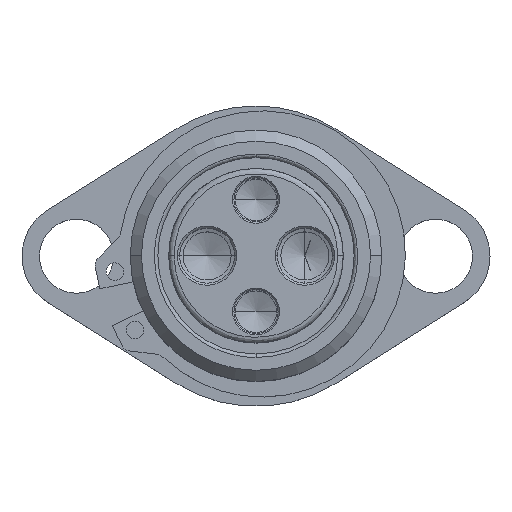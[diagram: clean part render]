
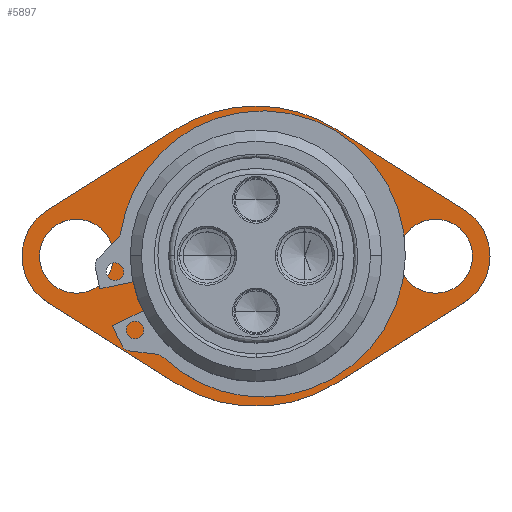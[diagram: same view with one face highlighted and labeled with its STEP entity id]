
A CAD part, top view. The second image highlights one B-rep face of the part: STEP entity #5897.
In plain terms, the highlighted planar face has unit normal (0, 0, 1) as drawn and (0, 1, 0) by its records, which use the part's own axes.
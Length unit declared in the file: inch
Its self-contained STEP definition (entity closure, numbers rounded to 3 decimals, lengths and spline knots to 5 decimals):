
#48 = ORIENTED_EDGE ( 'NONE', *, *, #942, .F. ) ;
#75 = CARTESIAN_POINT ( 'NONE',  ( 0., 0.25, 0. ) ) ;
#79 = LINE ( 'NONE', #1450, #915 ) ;
#81 = CARTESIAN_POINT ( 'NONE',  ( 1.285, 0.25, 0. ) ) ;
#93 = VECTOR ( 'NONE', #3930, 39.37008 ) ;
#127 = DIRECTION ( 'NONE',  ( 0., -1., 0. ) ) ;
#211 = EDGE_CURVE ( 'NONE', #1039, #1378, #873, .T. ) ;
#345 = ORIENTED_EDGE ( 'NONE', *, *, #2835, .T. ) ;
#376 = AXIS2_PLACEMENT_3D ( 'NONE', #75, #3287, #2400 ) ;
#378 = EDGE_LOOP ( 'NONE', ( #5027, #4464 ) ) ;
#392 = CARTESIAN_POINT ( 'NONE',  ( 0., 0.25, -1.075 ) ) ;
#411 = VERTEX_POINT ( 'NONE', #4687 ) ;
#450 = AXIS2_PLACEMENT_3D ( 'NONE', #5252, #4308, #2877 ) ;
#538 = DIRECTION ( 'NONE',  ( 0., 0., -1. ) ) ;
#575 = AXIS2_PLACEMENT_3D ( 'NONE', #1452, #4696, #3200 ) ;
#620 = LINE ( 'NONE', #4919, #93 ) ;
#683 = CARTESIAN_POINT ( 'NONE',  ( 0.57305, 0.25, -0.90952 ) ) ;
#824 = AXIS2_PLACEMENT_3D ( 'NONE', #2522, #2105, #1604 ) ;
#873 = CIRCLE ( 'NONE', #3169, 0.9 ) ;
#888 = EDGE_CURVE ( 'NONE', #1739, #411, #1530, .T. ) ;
#915 = VECTOR ( 'NONE', #4241, 39.37008 ) ;
#942 = EDGE_CURVE ( 'NONE', #3940, #5058, #4975, .T. ) ;
#951 = CARTESIAN_POINT ( 'NONE',  ( -0.57305, 0.25, -0.90952 ) ) ;
#953 = EDGE_CURVE ( 'NONE', #5353, #2119, #2446, .T. ) ;
#978 = EDGE_CURVE ( 'NONE', #3511, #5136, #5335, .T. ) ;
#1019 = AXIS2_PLACEMENT_3D ( 'NONE', #1518, #1549, #538 ) ;
#1039 = VERTEX_POINT ( 'NONE', #5291 ) ;
#1070 = ORIENTED_EDGE ( 'NONE', *, *, #211, .T. ) ;
#1079 = VERTEX_POINT ( 'NONE', #2016 ) ;
#1132 = CIRCLE ( 'NONE', #824, 1.075 ) ;
#1217 = DIRECTION ( 'NONE',  ( 0., 0., -1. ) ) ;
#1264 = VERTEX_POINT ( 'NONE', #683 ) ;
#1275 = FACE_BOUND ( 'NONE', #2946, .T. ) ;
#1378 = VERTEX_POINT ( 'NONE', #3119 ) ;
#1450 = CARTESIAN_POINT ( 'NONE',  ( 0.57305, 0.25, -0.90952 ) ) ;
#1452 = CARTESIAN_POINT ( 'NONE',  ( -1.285, 0.25, 0. ) ) ;
#1518 = CARTESIAN_POINT ( 'NONE',  ( 1.285, 0.25, 0. ) ) ;
#1530 = CIRCLE ( 'NONE', #575, 0.39 ) ;
#1549 = DIRECTION ( 'NONE',  ( 0., -1., 0. ) ) ;
#1577 = DIRECTION ( 'NONE',  ( 0., -1., 0. ) ) ;
#1583 = EDGE_LOOP ( 'NONE', ( #48, #4152, #5863, #345, #1806, #5504, #4058, #4136, #4357 ) ) ;
#1604 = DIRECTION ( 'NONE',  ( 0., 0., -1. ) ) ;
#1739 = VERTEX_POINT ( 'NONE', #4448 ) ;
#1781 = EDGE_CURVE ( 'NONE', #3372, #5163, #620, .T. ) ;
#1806 = ORIENTED_EDGE ( 'NONE', *, *, #5873, .F. ) ;
#1885 = CARTESIAN_POINT ( 'NONE',  ( -1.285, 0.25, -0.265 ) ) ;
#2016 = CARTESIAN_POINT ( 'NONE',  ( 1.4929, 0.25, -0.32997 ) ) ;
#2048 = DIRECTION ( 'NONE',  ( 0., -1., 0. ) ) ;
#2054 = CARTESIAN_POINT ( 'NONE',  ( 1.285, 0.25, 0. ) ) ;
#2105 = DIRECTION ( 'NONE',  ( 0., -1., 0. ) ) ;
#2119 = VERTEX_POINT ( 'NONE', #3270 ) ;
#2148 = AXIS2_PLACEMENT_3D ( 'NONE', #3044, #2576, #3465 ) ;
#2245 = EDGE_CURVE ( 'NONE', #5058, #1264, #1132, .T. ) ;
#2313 = EDGE_CURVE ( 'NONE', #3940, #411, #3607, .T. ) ;
#2315 = VERTEX_POINT ( 'NONE', #4477 ) ;
#2354 = CARTESIAN_POINT ( 'NONE',  ( -1.4929, 0.25, 0.32997 ) ) ;
#2400 = DIRECTION ( 'NONE',  ( 0., 0., -1. ) ) ;
#2446 = CIRCLE ( 'NONE', #1019, 0.265 ) ;
#2522 = CARTESIAN_POINT ( 'NONE',  ( 0., 0.25, 0. ) ) ;
#2576 = DIRECTION ( 'NONE',  ( 0., -1., 0. ) ) ;
#2619 = CARTESIAN_POINT ( 'NONE',  ( 1.285, 0.25, 0.265 ) ) ;
#2651 = AXIS2_PLACEMENT_3D ( 'NONE', #3434, #3600, #5958 ) ;
#2705 = ORIENTED_EDGE ( 'NONE', *, *, #5589, .T. ) ;
#2835 = EDGE_CURVE ( 'NONE', #1739, #2315, #4192, .T. ) ;
#2877 = DIRECTION ( 'NONE',  ( 0., 0., -1. ) ) ;
#2912 = FACE_OUTER_BOUND ( 'NONE', #1583, .T. ) ;
#2928 = CIRCLE ( 'NONE', #5130, 0.39 ) ;
#2946 = EDGE_LOOP ( 'NONE', ( #5573, #1070 ) ) ;
#3044 = CARTESIAN_POINT ( 'NONE',  ( 0., 0.25, 0. ) ) ;
#3119 = CARTESIAN_POINT ( 'NONE',  ( 0., 0.25, -0.9 ) ) ;
#3148 = FACE_BOUND ( 'NONE', #378, .T. ) ;
#3169 = AXIS2_PLACEMENT_3D ( 'NONE', #4852, #2048, #5333 ) ;
#3200 = DIRECTION ( 'NONE',  ( 0., 0., -1. ) ) ;
#3247 = DIRECTION ( 'NONE',  ( 0., 0., -1. ) ) ;
#3270 = CARTESIAN_POINT ( 'NONE',  ( 1.285, 0.25, -0.265 ) ) ;
#3287 = DIRECTION ( 'NONE',  ( 0., -1., 0. ) ) ;
#3372 = VERTEX_POINT ( 'NONE', #4219 ) ;
#3434 = CARTESIAN_POINT ( 'NONE',  ( -1.285, 0.25, 0. ) ) ;
#3446 = EDGE_CURVE ( 'NONE', #1079, #1264, #79, .T. ) ;
#3465 = DIRECTION ( 'NONE',  ( 0., 0., -1. ) ) ;
#3511 = VERTEX_POINT ( 'NONE', #5792 ) ;
#3550 = CARTESIAN_POINT ( 'NONE',  ( -1.4929, 0.25, -0.32997 ) ) ;
#3600 = DIRECTION ( 'NONE',  ( 0., 1., 0. ) ) ;
#3607 = LINE ( 'NONE', #3550, #4412 ) ;
#3855 = EDGE_CURVE ( 'NONE', #1378, #1039, #5800, .T. ) ;
#3930 = DIRECTION ( 'NONE',  ( 0.846, 0., -0.533 ) ) ;
#3940 = VERTEX_POINT ( 'NONE', #951 ) ;
#4025 = DIRECTION ( 'NONE',  ( -0.846, 0., 0.533 ) ) ;
#4053 = CIRCLE ( 'NONE', #5962, 0.265 ) ;
#4058 = ORIENTED_EDGE ( 'NONE', *, *, #4612, .F. ) ;
#4136 = ORIENTED_EDGE ( 'NONE', *, *, #3446, .T. ) ;
#4152 = ORIENTED_EDGE ( 'NONE', *, *, #2313, .T. ) ;
#4162 = CARTESIAN_POINT ( 'NONE',  ( 1.4929, 0.25, 0.32997 ) ) ;
#4192 = LINE ( 'NONE', #2354, #5976 ) ;
#4219 = CARTESIAN_POINT ( 'NONE',  ( 0.57305, 0.25, 0.90952 ) ) ;
#4241 = DIRECTION ( 'NONE',  ( -0.846, 0., -0.533 ) ) ;
#4306 = EDGE_LOOP ( 'NONE', ( #2705, #4874 ) ) ;
#4308 = DIRECTION ( 'NONE',  ( 0., -1., 0. ) ) ;
#4357 = ORIENTED_EDGE ( 'NONE', *, *, #2245, .F. ) ;
#4412 = VECTOR ( 'NONE', #4025, 39.37008 ) ;
#4448 = CARTESIAN_POINT ( 'NONE',  ( -1.4929, 0.25, 0.32997 ) ) ;
#4464 = ORIENTED_EDGE ( 'NONE', *, *, #978, .T. ) ;
#4477 = CARTESIAN_POINT ( 'NONE',  ( -0.57305, 0.25, 0.90952 ) ) ;
#4612 = EDGE_CURVE ( 'NONE', #1079, #5163, #2928, .T. ) ;
#4678 = FACE_BOUND ( 'NONE', #4306, .T. ) ;
#4687 = CARTESIAN_POINT ( 'NONE',  ( -1.4929, 0.25, -0.32997 ) ) ;
#4696 = DIRECTION ( 'NONE',  ( 0., -1., 0. ) ) ;
#4712 = EDGE_CURVE ( 'NONE', #5136, #3511, #4053, .T. ) ;
#4719 = AXIS2_PLACEMENT_3D ( 'NONE', #81, #5695, #5234 ) ;
#4819 = CARTESIAN_POINT ( 'NONE',  ( -1.285, 0.25, 0. ) ) ;
#4852 = CARTESIAN_POINT ( 'NONE',  ( 0., 0.25, 0. ) ) ;
#4874 = ORIENTED_EDGE ( 'NONE', *, *, #953, .T. ) ;
#4880 = DIRECTION ( 'NONE',  ( 0., 0., -1. ) ) ;
#4919 = CARTESIAN_POINT ( 'NONE',  ( 0.57305, 0.25, 0.90952 ) ) ;
#4975 = CIRCLE ( 'NONE', #376, 1.075 ) ;
#5027 = ORIENTED_EDGE ( 'NONE', *, *, #4712, .T. ) ;
#5058 = VERTEX_POINT ( 'NONE', #392 ) ;
#5130 = AXIS2_PLACEMENT_3D ( 'NONE', #2054, #127, #4880 ) ;
#5136 = VERTEX_POINT ( 'NONE', #1885 ) ;
#5163 = VERTEX_POINT ( 'NONE', #4162 ) ;
#5234 = DIRECTION ( 'NONE',  ( 0., 0., -1. ) ) ;
#5252 = CARTESIAN_POINT ( 'NONE',  ( -1.285, 0.25, 0. ) ) ;
#5291 = CARTESIAN_POINT ( 'NONE',  ( 0., 0.25, 0.9 ) ) ;
#5305 = CIRCLE ( 'NONE', #4719, 0.265 ) ;
#5333 = DIRECTION ( 'NONE',  ( 0., 0., -1. ) ) ;
#5335 = CIRCLE ( 'NONE', #450, 0.265 ) ;
#5353 = VERTEX_POINT ( 'NONE', #2619 ) ;
#5448 = AXIS2_PLACEMENT_3D ( 'NONE', #6060, #5619, #3247 ) ;
#5504 = ORIENTED_EDGE ( 'NONE', *, *, #1781, .T. ) ;
#5573 = ORIENTED_EDGE ( 'NONE', *, *, #3855, .T. ) ;
#5589 = EDGE_CURVE ( 'NONE', #2119, #5353, #5305, .T. ) ;
#5619 = DIRECTION ( 'NONE',  ( 0., -1., 0. ) ) ;
#5646 = CIRCLE ( 'NONE', #2148, 1.075 ) ;
#5695 = DIRECTION ( 'NONE',  ( 0., -1., 0. ) ) ;
#5792 = CARTESIAN_POINT ( 'NONE',  ( -1.285, 0.25, 0.265 ) ) ;
#5800 = CIRCLE ( 'NONE', #5448, 0.9 ) ;
#5863 = ORIENTED_EDGE ( 'NONE', *, *, #888, .F. ) ;
#5873 = EDGE_CURVE ( 'NONE', #3372, #2315, #5646, .T. ) ;
#5897 = ADVANCED_FACE ( 'NONE', ( #3148, #2912, #4678, #1275 ), #5920, .T. ) ;
#5920 = PLANE ( 'NONE',  #2651 ) ;
#5958 = DIRECTION ( 'NONE',  ( 0., 0., 1. ) ) ;
#5962 = AXIS2_PLACEMENT_3D ( 'NONE', #4819, #1577, #1217 ) ;
#5976 = VECTOR ( 'NONE', #6079, 39.37008 ) ;
#6060 = CARTESIAN_POINT ( 'NONE',  ( 0., 0.25, 0. ) ) ;
#6079 = DIRECTION ( 'NONE',  ( 0.846, 0., 0.533 ) ) ;
